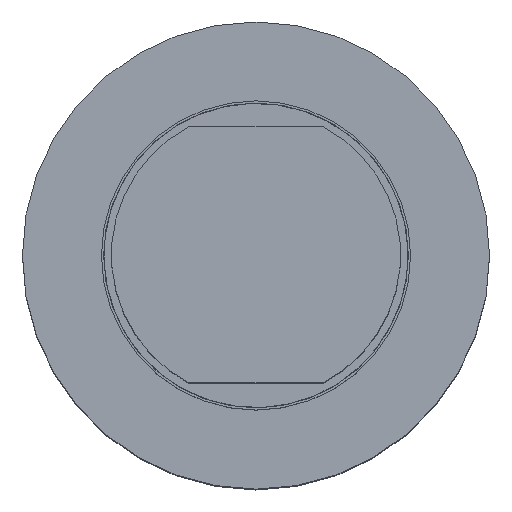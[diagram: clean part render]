
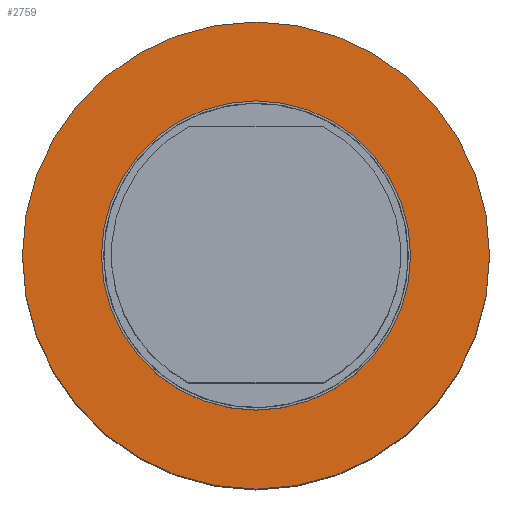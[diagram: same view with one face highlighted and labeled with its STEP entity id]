
A CAD part, top view. The second image highlights one B-rep face of the part: STEP entity #2759.
In plain terms, the highlighted planar face has unit normal (0, 0, 1).
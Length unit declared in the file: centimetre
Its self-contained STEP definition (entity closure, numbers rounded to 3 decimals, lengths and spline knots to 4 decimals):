
#829=PLANE('',#2956);
#915=VERTEX_POINT('',#3964);
#917=VERTEX_POINT('',#3969);
#1139=CIRCLE('',#2954,2.1);
#1141=CIRCLE('',#2957,1.39);
#1303=EDGE_CURVE('',#915,#915,#1139,.T.);
#1305=EDGE_CURVE('',#917,#917,#1141,.T.);
#1605=ORIENTED_EDGE('',*,*,#1305,.F.);
#1606=ORIENTED_EDGE('',*,*,#1303,.F.);
#2159=EDGE_LOOP('',(#1605));
#2160=EDGE_LOOP('',(#1606));
#2471=FACE_BOUND('',#2159,.T.);
#2472=FACE_BOUND('',#2160,.T.);
#2759=ADVANCED_FACE('',(#2471,#2472),#829,.T.);
#2954=AXIS2_PLACEMENT_3D('',#3963,#3316,#3317);
#2956=AXIS2_PLACEMENT_3D('',#3967,#3320,$);
#2957=AXIS2_PLACEMENT_3D('',#3968,#3321,#3322);
#3316=DIRECTION('',(0.,0.,-1.));
#3317=DIRECTION('',(2.1,0.,0.));
#3320=DIRECTION('',(0.,0.,1.));
#3321=DIRECTION('',(0.,0.,1.));
#3322=DIRECTION('',(1.39,0.,0.));
#3963=CARTESIAN_POINT('',(0.,0.,2.2));
#3964=CARTESIAN_POINT('',(2.1,0.,2.2));
#3967=CARTESIAN_POINT('',(0.,0.,2.2));
#3968=CARTESIAN_POINT('',(0.,0.,2.2));
#3969=CARTESIAN_POINT('',(1.39,0.,2.2));
